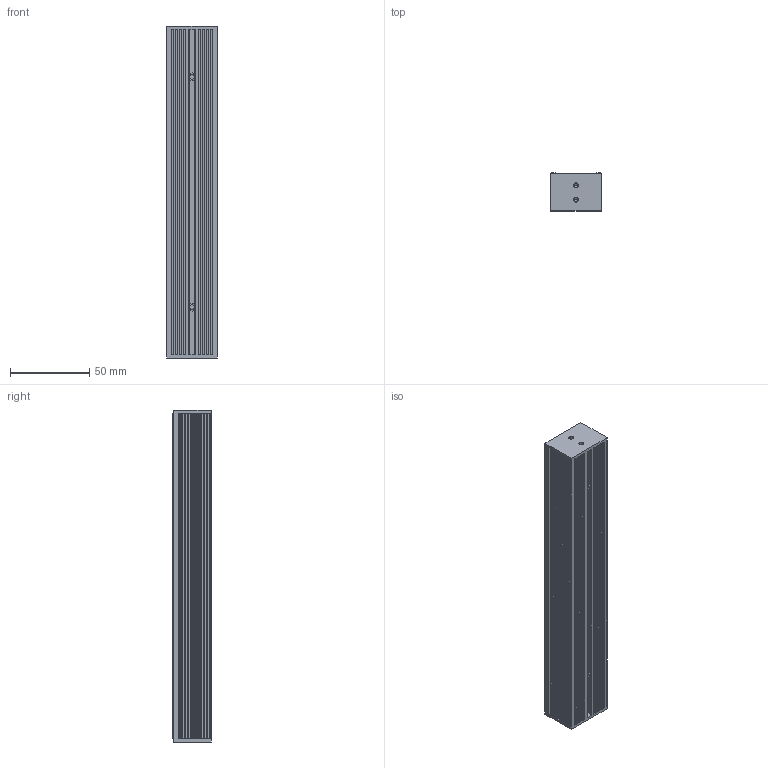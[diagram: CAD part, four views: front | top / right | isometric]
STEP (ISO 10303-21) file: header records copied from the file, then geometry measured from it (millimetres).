
FILE_DESCRIPTION((''),'2;1');
FILE_NAME('DSL32','2020-03-23T',('ASUS'),(''),'PRO/ENGINEER BY PARAMETRIC TECHNOLOGY CORPORATION, 2008380','PRO/ENGINEER BY PARAMETRIC TECHNOLOGY CORPORATION, 2008380','');
FILE_SCHEMA(('CONFIG_CONTROL_DESIGN'));
Length unit declared in the file: millimetre
Products named in the file (1): DSL32
Bounding box: 32 x 24 x 209 mm (x, y, z)
Volume: 141832.1 mm3; surface area: 47188.5 mm2
Topology: 1 solids, 5 shells, 305 faces, 780 edges, 512 vertices
Faces by surface type: plane 191, cylinder 94, cone 20
Entity records: 9277 total; most frequent: CARTESIAN_POINT 1686, DIRECTION 1576, ORIENTED_EDGE 1528, EDGE_CURVE 772, VECTOR 564, LINE 564, VERTEX_POINT 512, AXIS2_PLACEMENT_3D 506
